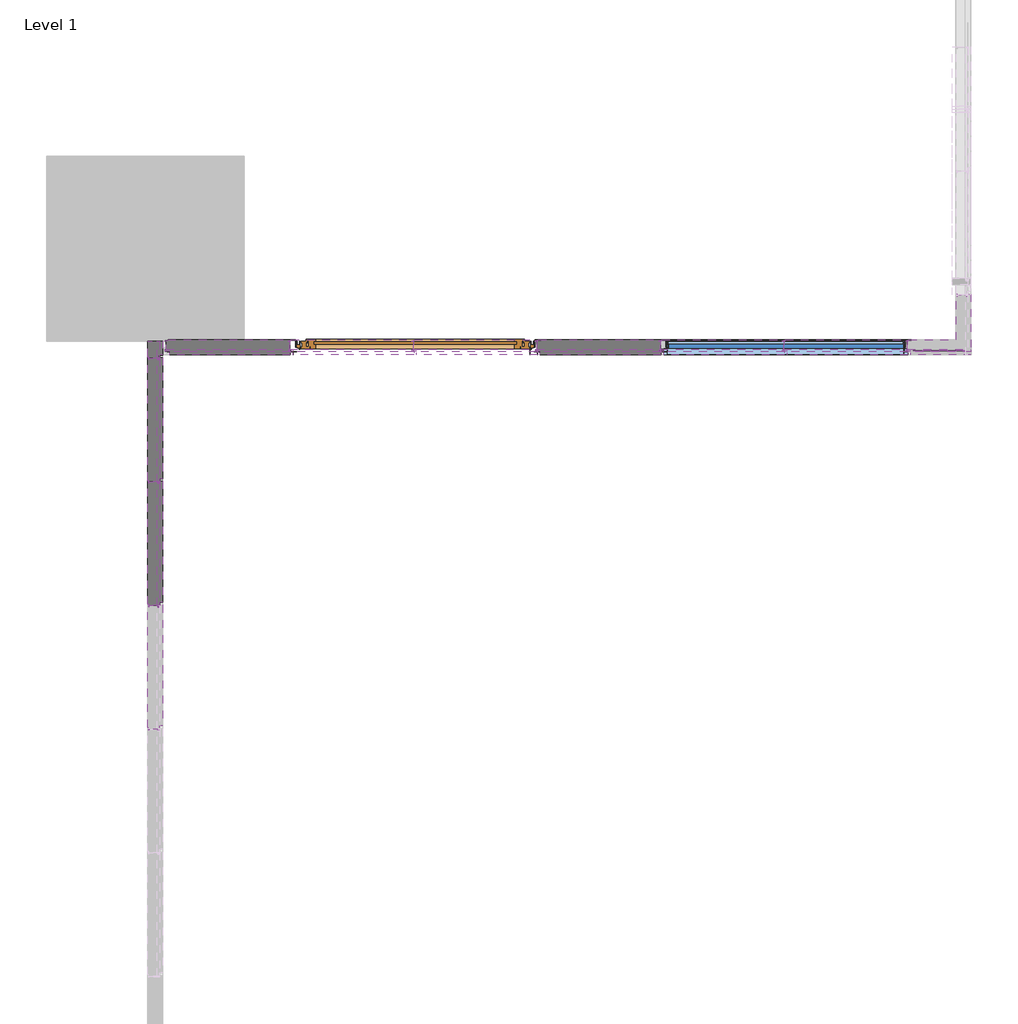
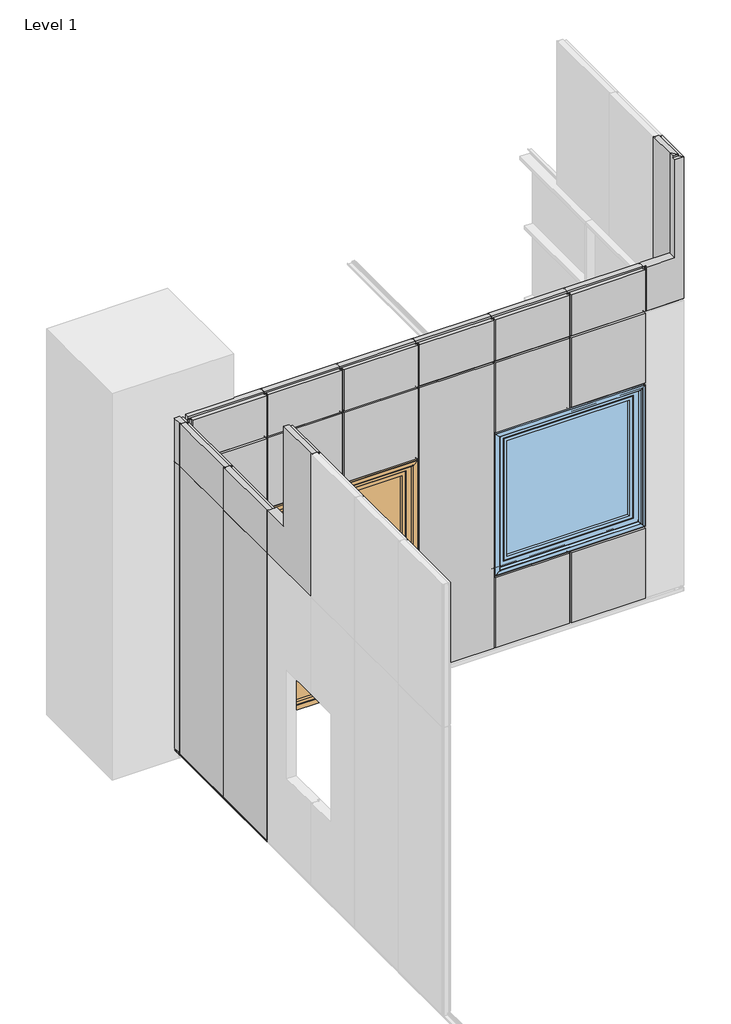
# One storey, part 4 of 8: 24 plates, 16 members, 1 door, 1 window.
"""IFC4 building model written with IfcOpenShell, lengths in millimetres."""

from ifc_helpers import new_model, si_unit, point, frame, frame_2d, origin, place, context, project, spatial, polyline, circle_curve, trimmed, segment, composite_curve, outline, extrude, faceted_brep, transform, mapped, element, save
from components import window_762d9ac7, window_b7e75d12, window_384785f8, rectangular_mullion_dd22ac08, rectangular_mullion_b855e219, qb_typ_1_ffcf64b0, qb_typ_1_c404f8b2, qb_typ_3_3dfc6f2a, qb_typ_3_856d2326, tr_empty_empty_eedd1f6f, tr_empty_empty_b4d49774, window_10a98746, window_183e3072, window_37efd591, window_7d5e8ae2

model = new_model("IFC4")

# Units and contexts
model_context = context("Model", 3, world=origin())
ifc_project = project(units=[si_unit("LENGTHUNIT", "METRE", prefix="MILLI")], contexts=[model_context])

# Site, building, storey
site = spatial("IfcSite", under=ifc_project)
building = spatial("IfcBuilding", under=site)
storey = spatial("IfcBuildingStorey", under=building, Name="Level 1", Elevation=0.0)

# Door
placement = place(None, origin())
window_shape = window_762d9ac7(model_context)
window_2_shape = window_b7e75d12(model_context)
window_3_shape = window_384785f8(model_context)
element("IfcDoor", 1, ObjectType="QO-V-QB_Door Module : Window", at=placement, inside=storey, context=model_context, shape_type="MappedRepresentation", body=[
    mapped(window_shape, transform((-4515.0000003, 7999.9, 150.0), x_axis=(-1.0, 0.0, 0.0), y_axis=(0.0, -1.0, 0.0), z_axis=(0.0, 0.0, 1.0))),
    mapped(window_2_shape, transform((-4515.0000003, 7999.9, 150.0), x_axis=(-1.0, 0.0, 0.0), y_axis=(0.0, -1.0, 0.0), z_axis=(0.0, 0.0, 1.0))),
    mapped(window_3_shape, transform((-4515.0000003, 7999.9, 150.0), x_axis=(-1.0, 0.0, 0.0), y_axis=(0.0, -1.0, 0.0), z_axis=(0.0, 0.0, 1.0))),
])

# Members
element("IfcMember", 2, ObjectType="Rectangular Mullion : QO-V-01_01 Joint", at=placement, inside=storey, context=model_context, shape_type="SweptSolid", body=[
    extrude(outline(composite_curve([segment(polyline([(4150.6475876, -6579.6160808), (4152.1626133, -6579.6160808), (4150.3497844, -6580.975941), (4150.3497844, -6581.775941), (4152.3513097, -6581.775941), (4152.3513097, -6579.3171533), (4151.2830771, -6579.3171533), (4151.2830771, -6571.539209)]), True, "CONTINUOUS"), segment(trimmed(circle_curve(frame_2d((4151.7824538, -6571.5150147)), 0.4999625), [point((4151.2830771, -6571.539209))], [point((4151.7824538, -6571.0150522))], False, "CARTESIAN"), True, "CONTINUOUS"), segment(polyline([(4151.7824538, -6571.0150522), (4162.4962599, -6571.0150522), (4162.4962599, -6581.1903783)]), True, "CONTINUOUS"), segment(trimmed(circle_curve(frame_2d((4161.8962599, -6581.1903783)), 0.6), [point((4162.4962599, -6581.1903783))], [point((4161.8962599, -6581.7903783))], False, "CARTESIAN"), True, "CONTINUOUS"), segment(polyline([(4161.8962599, -6581.7903783), (4156.3577362, -6581.7903783), (4156.3577362, -6584.605821), (4158.9563372, -6584.605821), (4157.4175879, -6588.8493825), (4154.3943655, -6585.3004501), (4145.6008097, -6585.3004501), (4142.5775874, -6588.8493825), (4141.038838, -6584.605821), (4143.637439, -6584.605821), (4143.637439, -6581.7903783), (4138.0989153, -6581.7903783)]), True, "CONTINUOUS"), segment(trimmed(circle_curve(frame_2d((4138.0989153, -6581.1903783)), 0.6), [point((4138.0989153, -6581.7903783))], [point((4137.4989153, -6581.1903783))], False, "CARTESIAN"), True, "CONTINUOUS"), segment(polyline([(4137.4989153, -6581.1903783), (4137.4989153, -6571.0150522), (4148.2127214, -6571.0150522)]), True, "CONTINUOUS"), segment(trimmed(circle_curve(frame_2d((4148.2127214, -6571.5150147)), 0.4999625), [point((4148.2127214, -6571.0150522))], [point((4148.7120981, -6571.539209))], False, "CARTESIAN"), True, "CONTINUOUS"), segment(polyline([(4148.7120981, -6571.539209), (4148.7120981, -6579.3171533), (4147.6438655, -6579.3171533), (4147.6438655, -6581.775941), (4149.6453908, -6581.775941), (4149.6453908, -6580.975941), (4147.8325619, -6579.6160808), (4149.3475876, -6579.6160808), (4149.3475876, -6570.5027716), (4141.6794739, -6570.5027716), (4140.1474985, -6569.5783626)]), True, "CONTINUOUS"), segment(trimmed(circle_curve(frame_2d((4140.3076572, -6569.3129399)), 0.31), [point((4140.1474985, -6569.5783626))], [point((4140.3076572, -6569.0029399))], False, "CARTESIAN"), True, "CONTINUOUS"), segment(polyline([(4140.3076572, -6569.0029399), (4159.6876801, -6569.0029399)]), True, "CONTINUOUS"), segment(trimmed(circle_curve(frame_2d((4159.6876801, -6569.3129399)), 0.31), [point((4159.6876801, -6569.0029399))], [point((4159.8478388, -6569.5783626))], False, "CARTESIAN"), True, "CONTINUOUS"), segment(polyline([(4159.8478388, -6569.5783626), (4158.3158634, -6570.5027716), (4150.6475876, -6570.5027716), (4150.6475876, -6579.6160808)]), True, "CONTINUOUS")], self_intersect=False)), frame((0.0, 7969.9999997, 0.0), z_axis=(0.0, 1.0, 0.0), x_axis=(0.0, 0.0, 1.0)), (0.0, 0.0, 1.0), 137.3916114),
])
rectangular_mullion_shape = rectangular_mullion_dd22ac08(model_context)
element("IfcMember", 3, ObjectType="Rectangular Mullion : QO-V-01_01 Joint", at=placement, inside=storey, context=model_context, shape_type="MappedRepresentation", body=[
    mapped(rectangular_mullion_shape, transform((-1515.0000003, 7999.9, 1150.0), x_axis=(0.0, 0.0, 1.0), y_axis=(0.0, 1.0, 0.0), z_axis=(-1.0, 0.0, 0.0))),
])
element("IfcMember", 4, ObjectType="Rectangular Mullion : QO-V-01_01 Joint", at=placement, inside=storey, context=model_context, shape_type="MappedRepresentation", body=[
    mapped(rectangular_mullion_shape, transform((-1515.0000003, 7999.9, 3150.0), x_axis=(0.0, 0.0, 1.0), y_axis=(0.0, 1.0, 0.0), z_axis=(-1.0, 0.0, 0.0))),
])
element("IfcMember", 5, ObjectType="Rectangular Mullion : QO-V-01_01 Joint", at=placement, inside=storey, context=model_context, shape_type="MappedRepresentation", body=[
    mapped(rectangular_mullion_shape, transform((-4515.0000003, 7999.9, 3150.0), x_axis=(0.0, 0.0, 1.0), y_axis=(0.0, 1.0, 0.0), z_axis=(-1.0, 0.0, 0.0))),
])
element("IfcMember", 6, ObjectType="Rectangular Mullion : QO-V-01_01 Joint", at=placement, inside=storey, context=model_context, shape_type="MappedRepresentation", body=[
    mapped(rectangular_mullion_shape, transform((-6545.0000003, 6969.9999997, 4150.0), x_axis=(0.0, 0.0, 1.0), y_axis=(-1.0, 0.0, 0.0), z_axis=(0.0, -1.0, 0.0))),
])
element("IfcMember", 7, ObjectType="Rectangular Mullion : QO-V-01_01 Joint", at=placement, inside=storey, context=model_context, shape_type="MappedRepresentation", body=[
    mapped(rectangular_mullion_shape, transform((-6545.0000003, 5969.9999997, 4150.0), x_axis=(0.0, 0.0, 1.0), y_axis=(-1.0, 0.0, 0.0), z_axis=(0.0, -1.0, 0.0))),
])
element("IfcMember", 8, ObjectType="Rectangular Mullion : QO-V-01_01 Joint", at=placement, inside=storey, context=model_context, shape_type="MappedRepresentation", body=[
    mapped(rectangular_mullion_shape, transform((-1515.0000003, 7999.9, 4150.0), x_axis=(0.0, 0.0, 1.0), y_axis=(0.0, 1.0, 0.0), z_axis=(-1.0, 0.0, 0.0))),
])
element("IfcMember", 9, ObjectType="Rectangular Mullion : QO-V-01_01 Joint", at=placement, inside=storey, context=model_context, shape_type="MappedRepresentation", body=[
    mapped(rectangular_mullion_shape, transform((-2515.0000003, 7999.9, 4150.0), x_axis=(0.0, 0.0, 1.0), y_axis=(0.0, 1.0, 0.0), z_axis=(-1.0, 0.0, 0.0))),
])
element("IfcMember", 10, ObjectType="Rectangular Mullion : QO-V-01_01 Joint", at=placement, inside=storey, context=model_context, shape_type="MappedRepresentation", body=[
    mapped(rectangular_mullion_shape, transform((-3515.0000003, 7999.9, 4150.0), x_axis=(0.0, 0.0, 1.0), y_axis=(0.0, 1.0, 0.0), z_axis=(-1.0, 0.0, 0.0))),
])
element("IfcMember", 11, ObjectType="Rectangular Mullion : QO-V-01_01 Joint", at=placement, inside=storey, context=model_context, shape_type="MappedRepresentation", body=[
    mapped(rectangular_mullion_shape, transform((-4515.0000003, 7999.9, 4150.0), x_axis=(0.0, 0.0, 1.0), y_axis=(0.0, 1.0, 0.0), z_axis=(-1.0, 0.0, 0.0))),
])
element("IfcMember", 12, ObjectType="Rectangular Mullion : QO-V-01_01 Joint", at=placement, inside=storey, context=model_context, shape_type="MappedRepresentation", body=[
    mapped(rectangular_mullion_shape, transform((-5515.0000003, 7999.9, 4150.0), x_axis=(0.0, 0.0, 1.0), y_axis=(0.0, 1.0, 0.0), z_axis=(-1.0, 0.0, 0.0))),
])
element("IfcMember", 13, ObjectType="Rectangular Mullion : QO-V-01_01 Joint", at=placement, inside=storey, context=model_context, shape_type="MappedRepresentation", body=[
    mapped(rectangular_mullion_shape, transform((-6515.0, 7999.9, 4150.0), x_axis=(0.0, 0.0, 1.0), y_axis=(0.0, 1.0, 0.0), z_axis=(-1.0, 0.0, 0.0))),
])
element("IfcMember", 14, ObjectType="Rectangular Mullion : QO-V-01_01 Joint", at=placement, inside=storey, context=model_context, shape_type="MappedRepresentation", body=[
    mapped(rectangular_mullion_shape, transform((-2515.0000003, 7999.9, 1150.0), x_axis=(0.0, 0.0, 1.0), y_axis=(0.0, 1.0, 0.0), z_axis=(-1.0, 0.0, 0.0))),
])
element("IfcMember", 15, ObjectType="Rectangular Mullion : QO-V-01_01 Joint", at=placement, inside=storey, context=model_context, shape_type="MappedRepresentation", body=[
    mapped(rectangular_mullion_shape, transform((-2515.0000003, 7999.9, 3150.0), x_axis=(0.0, 0.0, 1.0), y_axis=(0.0, 1.0, 0.0), z_axis=(-1.0, 0.0, 0.0))),
])
element("IfcMember", 16, ObjectType="Rectangular Mullion : QO-V-01_01 Joint", at=placement, inside=storey, context=model_context, shape_type="MappedRepresentation", body=[
    mapped(rectangular_mullion_shape, transform((-5515.0000003, 7999.9, 3150.0), x_axis=(0.0, 0.0, 1.0), y_axis=(0.0, 1.0, 0.0), z_axis=(-1.0, 0.0, 0.0))),
])
rectangular_mullion_2_shape = rectangular_mullion_b855e219(model_context)
element("IfcMember", 17, ObjectType="Rectangular Mullion : QO-V-01_01 Joint", at=placement, inside=storey, context=model_context, shape_type="MappedRepresentation", body=[
    mapped(rectangular_mullion_2_shape, transform((-515.0000003, 7999.9, 4150.0), x_axis=(0.0, 0.0, 1.0), y_axis=(0.0, 1.0, 0.0), z_axis=(-1.0, 0.0, 0.0))),
])

# Plates
element("IfcPlate", 18, ObjectType="TR_C_V_QBISS_Panel : QB TYP 1", at=placement, inside=storey, context=model_context, shape_type="SolidModel", body=[
    extrude(outline(polyline([(4138.3, -6593.2000003), (4162.7, -6593.2000003), (4162.7, -6594.0000003), (4137.5, -6594.0000003), (4137.5, -6589.0000003), (4138.3, -6589.0000003), (4138.3, -6593.2000003)])), frame((0.0, 8053.9999998, 0.0), z_axis=(0.0, 1.0, 0.0), x_axis=(0.0, 0.0, 1.0)), (0.0, 0.0, 1.0), 53.3916113),
    extrude(outline(polyline([(-6569.0000003, 7975.4999998), (-6570.499832, 7975.4999998), (-6570.499832, 7982.2976406), (-6572.9998296, 7982.2976406), (-6572.9998296, 7981.4976406), (-6573.7998431, 7981.4976406), (-6573.7998431, 7989.497697), (-6572.9998296, 7989.497697), (-6572.9998296, 7988.697697), (-6570.499832, 7988.697697), (-6570.499832, 7995.4999998), (-6569.0000003, 7995.4999998), (-6569.0000003, 7975.4999998)])), frame((0.0, 0.0, 4162.5), z_axis=(0.0, 0.0, 1.0), x_axis=(1.0, 0.0, 0.0)), (0.0, 0.0, 1.0), 575.0),
    faceted_brep([(-6665.0000003, 7983.9999998, 4762.4), (-6659.0000003, 7977.9999998, 4762.4), (-6659.0000003, 7959.9999998, 4762.4), (-6653.0000003, 7959.9999998, 4762.4), (-6653.0000003, 7969.9999998, 4762.4), (-6594.0000003, 7969.9999998, 4762.4), (-6594.0000003, 8107.3916111, 4762.4), (-6665.0000003, 8107.3916111, 4762.4), (-6653.0000003, 7969.9999998, 4162.5), (-6653.0000003, 7959.9999998, 4162.5), (-6659.0000003, 7959.9999998, 4162.5), (-6659.0000003, 7977.9999998, 4162.5), (-6665.0000003, 7983.9999998, 4162.5), (-6665.0000003, 8107.3916111, 4162.5), (-6594.0000003, 8107.3916111, 4162.5), (-6594.0000003, 7969.9999998, 4162.5), (-6594.0000003, 7969.9999998, 4162.7), (-6594.0000003, 8107.3916111, 4162.7), (-6545.0000003, 7996.9999998, 4162.7), (-6574.0000003, 7996.9999998, 4162.7), (-6574.0000003, 7959.9999998, 4162.7), (-6584.0000003, 7959.9999998, 4162.7), (-6584.0000003, 7969.9999998, 4162.7), (-6545.0000003, 8107.3916111, 4162.7), (-6584.0000003, 7969.9999998, 4737.3), (-6594.0000003, 7969.9999998, 4737.3), (-6584.0000003, 7959.9999998, 4737.3), (-6574.0000003, 7959.9999998, 4737.3), (-6574.0000003, 7996.9999998, 4737.3), (-6545.0000003, 7996.9999998, 4737.3), (-6545.0000003, 8107.3916111, 4737.3), (-6594.0000003, 8107.3916111, 4737.3)], [[[0, 1, 2, 3, 4, 5, 6, 7]], [[8, 9, 10, 11, 12, 13, 14, 15]], [[16, 15, 14, 17]], [[18, 19, 20, 21, 22, 16, 17, 23]], [[12, 0, 7, 13]], [[1, 0, 12, 11]], [[2, 1, 11, 10]], [[3, 2, 10, 9]], [[4, 3, 9, 8]], [[5, 4, 8, 15, 16, 22, 24, 25]], [[22, 21, 26, 24]], [[21, 20, 27, 26]], [[20, 19, 28, 27]], [[19, 18, 29, 28]], [[29, 18, 23, 30]], [[5, 25, 31, 6]], [[25, 24, 26, 27, 28, 29, 30, 31]], [[7, 6, 31, 30, 23, 17, 14, 13]]]),
])
element("IfcPlate", 19, ObjectType="TR_C_V_QBISS_Panel : QB TYP 1", at=placement, inside=storey, context=model_context, shape_type="SolidModel", body=[
    extrude(outline(polyline([(4138.3, -6593.2000003), (4162.7, -6593.2000003), (4162.7, -6594.0000003), (4137.5, -6594.0000003), (4137.5, -6589.0000003), (4138.3, -6589.0000003), (4138.3, -6593.2000003)])), frame((0.0, 6053.9999997, 0.0), z_axis=(0.0, 1.0, 0.0), x_axis=(0.0, 0.0, 1.0)), (0.0, 0.0, 1.0), 862.0),
    extrude(outline(polyline([(-6569.0000003, 5975.4999997), (-6570.499832, 5975.4999997), (-6570.499832, 5982.2976404), (-6572.9998296, 5982.2976404), (-6572.9998296, 5981.4976404), (-6573.7998431, 5981.4976404), (-6573.7998431, 5989.4976969), (-6572.9998296, 5989.4976969), (-6572.9998296, 5988.6976969), (-6570.499832, 5988.6976969), (-6570.499832, 5995.4999997), (-6569.0000003, 5995.4999997), (-6569.0000003, 5975.4999997)])), frame((0.0, 0.0, 4162.5), z_axis=(0.0, 0.0, 1.0), x_axis=(1.0, 0.0, 0.0)), (0.0, 0.0, 1.0), 575.0),
    faceted_brep([(-6653.0000003, 6969.9999997, 4762.4), (-6653.0000003, 6956.9999997, 4762.4), (-6659.0000003, 6956.9999997, 4762.4), (-6659.0000003, 6977.9999997, 4762.4), (-6665.0000003, 6977.9999997, 4762.4), (-6665.0000003, 5983.9999997, 4762.4), (-6659.0000003, 5977.9999997, 4762.4), (-6659.0000003, 5959.9999997, 4762.4), (-6653.0000003, 5959.9999997, 4762.4), (-6653.0000003, 5969.9999997, 4762.4), (-6594.0000003, 5969.9999997, 4762.4), (-6594.0000003, 6969.9999997, 4762.4), (-6653.0000003, 5969.9999997, 4162.5), (-6653.0000003, 5959.9999997, 4162.5), (-6659.0000003, 5959.9999997, 4162.5), (-6659.0000003, 5977.9999997, 4162.5), (-6665.0000003, 5983.9999997, 4162.5), (-6665.0000003, 6977.9999997, 4162.5), (-6659.0000003, 6977.9999997, 4162.5), (-6659.0000003, 6956.9999997, 4162.5), (-6653.0000003, 6956.9999997, 4162.5), (-6653.0000003, 6969.9999997, 4162.5), (-6594.0000003, 6969.9999997, 4162.5), (-6594.0000003, 5969.9999997, 4162.5), (-6594.0000003, 6969.9999997, 4162.7), (-6594.0000003, 5969.9999997, 4162.7), (-6584.0000003, 6969.9999997, 4162.7), (-6584.0000003, 6956.9999997, 4162.7), (-6574.0000003, 6956.9999997, 4162.7), (-6574.0000003, 6973.9999997, 4162.7), (-6545.0000003, 6973.9999997, 4162.7), (-6545.0000003, 5996.9999997, 4162.7), (-6574.0000003, 5996.9999997, 4162.7), (-6574.0000003, 5959.9999997, 4162.7), (-6584.0000003, 5959.9999997, 4162.7), (-6584.0000003, 5969.9999997, 4162.7), (-6584.0000003, 5969.9999997, 4737.3), (-6594.0000003, 5969.9999997, 4737.3), (-6584.0000003, 5959.9999997, 4737.3), (-6574.0000003, 5959.9999997, 4737.3), (-6574.0000003, 5996.9999997, 4737.3), (-6545.0000003, 5996.9999997, 4737.3), (-6545.0000003, 6973.9999997, 4737.3), (-6574.0000003, 6973.9999997, 4737.3), (-6574.0000003, 6956.9999997, 4737.3), (-6584.0000003, 6956.9999997, 4737.3), (-6584.0000003, 6969.9999997, 4737.3), (-6594.0000003, 6969.9999997, 4737.3)], [[[0, 1, 2, 3, 4, 5, 6, 7, 8, 9, 10, 11]], [[12, 13, 14, 15, 16, 17, 18, 19, 20, 21, 22, 23]], [[24, 25, 23, 22]], [[25, 24, 26, 27, 28, 29, 30, 31, 32, 33, 34, 35]], [[1, 0, 21, 20]], [[2, 1, 20, 19]], [[3, 2, 19, 18]], [[4, 3, 18, 17]], [[5, 4, 17, 16]], [[6, 5, 16, 15]], [[7, 6, 15, 14]], [[8, 7, 14, 13]], [[9, 8, 13, 12]], [[9, 12, 23, 25, 35, 36, 37, 10]], [[35, 34, 38, 36]], [[34, 33, 39, 38]], [[33, 32, 40, 39]], [[32, 31, 41, 40]], [[31, 30, 42, 41]], [[30, 29, 43, 42]], [[29, 28, 44, 43]], [[28, 27, 45, 44]], [[27, 26, 46, 45]], [[21, 0, 11, 47, 46, 26, 24, 22]], [[37, 47, 11, 10]], [[47, 37, 36, 38, 39, 40, 41, 42, 43, 44, 45, 46]]]),
])
element("IfcPlate", 20, ObjectType="TR_C_V_QBISS_Panel : QB TYP 1", at=placement, inside=storey, context=model_context, shape_type="SolidModel", body=[
    extrude(outline(polyline([(4138.3, -6593.2000003), (4162.7, -6593.2000003), (4162.7, -6594.0000003), (4137.5, -6594.0000003), (4137.5, -6589.0000003), (4138.3, -6589.0000003), (4138.3, -6593.2000003)])), frame((0.0, 5053.9999997, 0.0), z_axis=(0.0, 1.0, 0.0), x_axis=(0.0, 0.0, 1.0)), (0.0, 0.0, 1.0), 862.0),
    extrude(outline(polyline([(-6569.0000003, 4975.4999997), (-6570.499832, 4975.4999997), (-6570.499832, 4982.2976404), (-6572.9998296, 4982.2976404), (-6572.9998296, 4981.4976404), (-6573.7998431, 4981.4976404), (-6573.7998431, 4989.4976969), (-6572.9998296, 4989.4976969), (-6572.9998296, 4988.6976969), (-6570.499832, 4988.6976969), (-6570.499832, 4995.4999997), (-6569.0000003, 4995.4999997), (-6569.0000003, 4975.4999997)])), frame((0.0, 0.0, 4162.5), z_axis=(0.0, 0.0, 1.0), x_axis=(1.0, 0.0, 0.0)), (0.0, 0.0, 1.0), 1975.0),
    faceted_brep([(-6665.0000003, 4983.9999997, 6162.4), (-6659.0000003, 4977.9999997, 6162.4), (-6659.0000003, 4959.9999997, 6162.4), (-6653.0000003, 4959.9999997, 6162.4), (-6653.0000003, 4969.9999997, 6162.4), (-6594.0000003, 4969.9999997, 6162.4), (-6594.0000003, 5605.8999997, 6162.4), (-6665.0000003, 5605.8999997, 6162.4), (-6653.0000003, 4969.9999997, 4162.5), (-6653.0000003, 4959.9999997, 4162.5), (-6659.0000003, 4959.9999997, 4162.5), (-6659.0000003, 4977.9999997, 4162.5), (-6665.0000003, 4983.9999997, 4162.5), (-6665.0000003, 5977.9999997, 4162.5), (-6659.0000003, 5977.9999997, 4162.5), (-6659.0000003, 5956.9999997, 4162.5), (-6653.0000003, 5956.9999997, 4162.5), (-6653.0000003, 5969.9999997, 4162.5), (-6594.0000003, 5969.9999997, 4162.5), (-6594.0000003, 4969.9999997, 4162.5), (-6594.0000003, 5969.9999997, 4162.7), (-6594.0000003, 4969.9999997, 4162.7), (-6584.0000003, 5969.9999997, 4162.7), (-6584.0000003, 5956.9999997, 4162.7), (-6574.0000003, 5956.9999997, 4162.7), (-6574.0000003, 5973.9999997, 4162.7), (-6545.0000003, 5973.9999997, 4162.7), (-6545.0000003, 4996.9999997, 4162.7), (-6574.0000003, 4996.9999997, 4162.7), (-6574.0000003, 4959.9999997, 4162.7), (-6584.0000003, 4959.9999997, 4162.7), (-6584.0000003, 4969.9999997, 4162.7), (-6653.0000003, 5956.9999997, 4770.0), (-6653.0000003, 5969.9999997, 4770.0), (-6659.0000003, 5956.9999997, 4770.0), (-6659.0000003, 5977.9999997, 4770.0), (-6665.0000003, 5977.9999997, 4770.0), (-6665.0000003, 5605.8999997, 4770.0), (-6584.0000003, 4969.9999997, 6137.3), (-6594.0000003, 4969.9999997, 6137.3), (-6584.0000003, 4959.9999997, 6137.3), (-6574.0000003, 4959.9999997, 6137.3), (-6574.0000003, 4996.9999997, 6137.3), (-6545.0000003, 4996.9999997, 6137.3), (-6545.0000003, 5973.9999997, 4770.0), (-6545.0000003, 5605.8999997, 4770.0), (-6545.0000003, 5605.8999997, 6137.3), (-6574.0000003, 5973.9999997, 4770.0), (-6574.0000003, 5956.9999997, 4770.0), (-6584.0000003, 5956.9999997, 4770.0), (-6584.0000003, 5969.9999997, 4770.0), (-6594.0000003, 5605.8999997, 6137.3)], [[[0, 1, 2, 3, 4, 5, 6, 7]], [[8, 9, 10, 11, 12, 13, 14, 15, 16, 17, 18, 19]], [[19, 18, 20, 21]], [[21, 20, 22, 23, 24, 25, 26, 27, 28, 29, 30, 31]], [[17, 16, 32, 33]], [[16, 15, 34, 32]], [[15, 14, 35, 34]], [[14, 13, 36, 35]], [[13, 12, 0, 7, 37, 36]], [[1, 0, 12, 11]], [[2, 1, 11, 10]], [[3, 2, 10, 9]], [[4, 3, 9, 8]], [[5, 4, 8, 19, 21, 31, 38, 39]], [[31, 30, 40, 38]], [[30, 29, 41, 40]], [[29, 28, 42, 41]], [[28, 27, 43, 42]], [[27, 26, 44, 45, 46, 43]], [[26, 25, 47, 44]], [[25, 24, 48, 47]], [[24, 23, 49, 48]], [[23, 22, 50, 49]], [[18, 17, 33, 50, 22, 20]], [[5, 39, 51, 6]], [[39, 38, 40, 41, 42, 43, 46, 51]], [[45, 37, 7, 6, 51, 46]], [[37, 45, 44, 47, 48, 49, 50, 33, 32, 34, 35, 36]]]),
])
element("IfcPlate", 21, ObjectType="TR_C_V_QBISS_Corner_Long_A : QB TYP 1", at=placement, inside=storey, context=model_context, shape_type="SolidModel", body=[
    faceted_brep([(-108.0, 8484.9, 6162.4), (-108.0, 8471.9, 6162.4), (-114.0, 8471.9, 6162.4), (-114.0, 8492.9, 6162.4), (-120.0, 8492.9, 6162.4), (-120.0, 8119.9, 6162.4), (-49.0, 8048.9, 6162.4), (-49.0, 8484.9, 6162.4), (-120.0, 8119.9, 4162.5), (-120.0, 8492.9, 4162.5), (-114.0, 8492.9, 4162.5), (-114.0, 8471.9, 4162.5), (-108.0, 8471.9, 4162.5), (-108.0, 8484.9, 4162.5), (-49.0, 8484.9, 4162.5), (-49.0, 8048.9, 4162.5), (-49.0, 8484.9, 4162.7), (-49.0, 8048.9, 4162.7), (-39.0, 8484.9, 4162.7), (-39.0, 8471.9, 4162.7), (-29.0, 8471.9, 4162.7), (-29.0, 8488.9, 4162.7), (0.0, 8488.9, 4162.7), (0.0, 7999.9, 4162.7), (0.0, 8488.9, 6137.3), (0.0, 7999.9, 6137.3), (-29.0, 8488.9, 6137.3), (-29.0, 8471.9, 6137.3), (-39.0, 8471.9, 6137.3), (-39.0, 8484.9, 6137.3), (-49.0, 8484.9, 6137.3), (-49.0, 8048.9, 6137.3)], [[[0, 1, 2, 3, 4, 5, 6, 7]], [[8, 9, 10, 11, 12, 13, 14, 15]], [[16, 17, 15, 14]], [[17, 16, 18, 19, 20, 21, 22, 23]], [[1, 0, 13, 12]], [[2, 1, 12, 11]], [[3, 2, 11, 10]], [[4, 3, 10, 9]], [[5, 4, 9, 8]], [[23, 22, 24, 25]], [[22, 21, 26, 24]], [[21, 20, 27, 26]], [[20, 19, 28, 27]], [[19, 18, 29, 28]], [[13, 0, 7, 30, 29, 18, 16, 14]], [[31, 30, 7, 6]], [[30, 31, 25, 24, 26, 27, 28, 29]], [[5, 8, 15, 17, 23, 25, 31, 6]]]),
    faceted_brep([(-48.2, 8430.9, 4138.3), (-44.0, 8430.9, 4138.3), (-44.0, 8430.9, 4137.5), (-49.0, 8430.9, 4137.5), (-49.0, 8430.9, 4162.7), (-48.2, 8430.9, 4162.7), (-48.2, 8048.1, 4162.7), (-48.2, 8048.1, 4138.3), (-49.0, 8048.9, 4162.7), (-49.0, 8048.9, 4137.5), (-44.0, 8043.9, 4137.5), (-44.0, 8043.9, 4138.3)], [[[0, 1, 2, 3, 4, 5]], [[0, 5, 6, 7]], [[5, 4, 8, 6]], [[4, 3, 9, 8]], [[3, 2, 10, 9]], [[2, 1, 11, 10]], [[1, 0, 7, 11]], [[7, 6, 8, 9, 10, 11]]]),
    extrude(outline(polyline([(-509.5, 8023.9), (-509.5, 8025.3998317), (-502.7023593, 8025.3998317), (-502.7023593, 8027.8998293), (-503.5023593, 8027.8998293), (-503.5023593, 8028.6998428), (-495.5023028, 8028.6998428), (-495.5023028, 8027.8998293), (-496.3023028, 8027.8998293), (-496.3023028, 8025.3998317), (-489.5, 8025.3998317), (-489.5, 8023.9), (-509.5, 8023.9)])), frame((0.0, 0.0, 4162.7), z_axis=(0.0, 0.0, 1.0), x_axis=(1.0, 0.0, 0.0)), (0.0, 0.0, 1.0), 607.3),
    faceted_brep([(-49.0, 8048.9, 6162.4), (-120.0, 8119.9, 6162.4), (-120.0, 8048.9, 6162.4), (-515.0, 8107.9, 4162.5), (-525.0, 8107.9, 4162.5), (-525.0, 8113.9, 4162.5), (-507.0, 8113.9, 4162.5), (-501.0, 8119.9, 4162.5), (-120.0, 8119.9, 4162.5), (-49.0, 8048.9, 4162.5), (-515.0, 8048.9, 4162.5), (-501.0, 8119.9, 4770.0), (-120.0, 8119.9, 4770.0), (-507.0, 8113.9, 4770.0), (-525.0, 8113.9, 4770.0), (-525.0, 8107.9, 4770.0), (-515.0, 8107.9, 4770.0), (-515.0, 8048.9, 4162.7), (-515.0, 8038.9, 4162.7), (-515.0, 8038.9, 4770.0), (-525.0, 8038.9, 4162.7), (-525.0, 8038.9, 4770.0), (-525.0, 8028.9, 4162.7), (-525.0, 8028.9, 4770.0), (-488.0, 8028.9, 4162.7), (-488.0, 8028.9, 4770.0), (-488.0, 7999.9, 4162.7), (-488.0, 7999.9, 4770.0), (0.0, 7999.9, 4162.7), (0.0, 7999.9, 6137.3), (-120.0, 7999.9, 6137.3), (-120.0, 7999.9, 4770.0), (-49.0, 8048.9, 6137.3), (-120.0, 8048.9, 6137.3), (-49.0, 8048.9, 4162.7)], [[[0, 1, 2]], [[3, 4, 5, 6, 7, 8, 9, 10]], [[8, 7, 11, 12]], [[7, 6, 13, 11]], [[6, 5, 14, 13]], [[5, 4, 15, 14]], [[4, 3, 16, 15]], [[3, 10, 17, 18, 19, 16]], [[18, 20, 21, 19]], [[20, 22, 23, 21]], [[22, 24, 25, 23]], [[24, 26, 27, 25]], [[26, 28, 29, 30, 31, 27]], [[32, 0, 2, 33]], [[29, 32, 33, 30]], [[10, 9, 34, 17]], [[18, 17, 34, 28, 26, 24, 22, 20]], [[1, 0, 32, 29, 28, 34, 9, 8, 12]], [[12, 31, 30, 33, 2, 1]], [[31, 12, 11, 13, 14, 15, 16, 19, 21, 23, 25, 27]]]),
    faceted_brep([(-431.0, 8048.9, 4137.5), (-431.0, 8043.9, 4137.5), (-431.0, 8043.9, 4138.3), (-431.0, 8048.1, 4138.3), (-431.0, 8048.1, 4162.7), (-431.0, 8048.9, 4162.7), (-49.0, 8048.9, 4137.5), (-44.0, 8043.9, 4137.5), (-44.0, 8043.9, 4138.3), (-48.2, 8048.1, 4138.3), (-48.2, 8048.1, 4162.7), (-49.0, 8048.9, 4162.7)], [[[0, 1, 2, 3, 4, 5]], [[1, 0, 6, 7]], [[2, 1, 7, 8]], [[3, 2, 8, 9]], [[4, 3, 9, 10]], [[5, 4, 10, 11]], [[0, 5, 11, 6]], [[7, 6, 11, 10, 9, 8]]]),
])
qb_typ_1_shape = qb_typ_1_ffcf64b0(model_context)
element("IfcPlate", 22, ObjectType="TR_C_V_QBISS_Panel : QB TYP 1", at=placement, inside=storey, context=model_context, shape_type="MappedRepresentation", body=[
    mapped(qb_typ_1_shape, transform((-6545.0000003, 7469.9999997, 4150.0), x_axis=(0.0, -1.0, 0.0), y_axis=(1.0, 0.0, 0.0), z_axis=(0.0, 0.0, 1.0))),
])
element("IfcPlate", 23, ObjectType="TR_C_V_QBISS_Panel : QB TYP 1", at=placement, inside=storey, context=model_context, shape_type="MappedRepresentation", body=[
    mapped(qb_typ_1_shape, transform((-1015.0000003, 7999.9, 4150.0), x_axis=(-1.0, 0.0, 0.0), y_axis=(0.0, -1.0, 0.0), z_axis=(0.0, 0.0, 1.0))),
])
element("IfcPlate", 24, ObjectType="TR_C_V_QBISS_Panel : QB TYP 1", at=placement, inside=storey, context=model_context, shape_type="MappedRepresentation", body=[
    mapped(qb_typ_1_shape, transform((-2015.0000003, 7999.9, 4150.0), x_axis=(-1.0, 0.0, 0.0), y_axis=(0.0, -1.0, 0.0), z_axis=(0.0, 0.0, 1.0))),
])
element("IfcPlate", 25, ObjectType="TR_C_V_QBISS_Panel : QB TYP 1", at=placement, inside=storey, context=model_context, shape_type="MappedRepresentation", body=[
    mapped(qb_typ_1_shape, transform((-3015.0000003, 7999.9, 4150.0), x_axis=(-1.0, 0.0, 0.0), y_axis=(0.0, -1.0, 0.0), z_axis=(0.0, 0.0, 1.0))),
])
element("IfcPlate", 26, ObjectType="TR_C_V_QBISS_Panel : QB TYP 1", at=placement, inside=storey, context=model_context, shape_type="MappedRepresentation", body=[
    mapped(qb_typ_1_shape, transform((-4015.0000003, 7999.9, 4150.0), x_axis=(-1.0, 0.0, 0.0), y_axis=(0.0, -1.0, 0.0), z_axis=(0.0, 0.0, 1.0))),
])
element("IfcPlate", 27, ObjectType="TR_C_V_QBISS_Panel : QB TYP 1", at=placement, inside=storey, context=model_context, shape_type="MappedRepresentation", body=[
    mapped(qb_typ_1_shape, transform((-5015.0000003, 7999.9, 4150.0), x_axis=(-1.0, 0.0, 0.0), y_axis=(0.0, -1.0, 0.0), z_axis=(0.0, 0.0, 1.0))),
])
element("IfcPlate", 28, ObjectType="TR_C_V_QBISS_Panel : QB TYP 1", at=placement, inside=storey, context=model_context, shape_type="MappedRepresentation", body=[
    mapped(qb_typ_1_shape, transform((-6015.0000002, 7999.9, 4150.0), x_axis=(-1.0, 0.0, 0.0), y_axis=(0.0, -1.0, 0.0), z_axis=(0.0, 0.0, 1.0))),
])
qb_typ_1_2_shape = qb_typ_1_c404f8b2(model_context)
element("IfcPlate", 29, ObjectType="TR_C_V_QBISS_Panel : QB TYP 1", at=placement, inside=storey, context=model_context, shape_type="MappedRepresentation", body=[
    mapped(qb_typ_1_2_shape, transform((-1015.0000003, 7999.9, 3150.0), x_axis=(-1.0, 0.0, 0.0), y_axis=(0.0, -1.0, 0.0), z_axis=(0.0, 0.0, 1.0))),
])
element("IfcPlate", 30, ObjectType="TR_C_V_QBISS_Panel : QB TYP 1", at=placement, inside=storey, context=model_context, shape_type="MappedRepresentation", body=[
    mapped(qb_typ_1_2_shape, transform((-2015.0000003, 7999.9, 3150.0), x_axis=(-1.0, 0.0, 0.0), y_axis=(0.0, -1.0, 0.0), z_axis=(0.0, 0.0, 1.0))),
])
element("IfcPlate", 31, ObjectType="TR_C_V_QBISS_Panel : QB TYP 1", at=placement, inside=storey, context=model_context, shape_type="MappedRepresentation", body=[
    mapped(qb_typ_1_2_shape, transform((-4015.0000003, 7999.9, 3150.0), x_axis=(-1.0, 0.0, 0.0), y_axis=(0.0, -1.0, 0.0), z_axis=(0.0, 0.0, 1.0))),
])
element("IfcPlate", 32, ObjectType="TR_C_V_QBISS_Panel : QB TYP 1", at=placement, inside=storey, context=model_context, shape_type="MappedRepresentation", body=[
    mapped(qb_typ_1_2_shape, transform((-5015.0000003, 7999.9, 3150.0), x_axis=(-1.0, 0.0, 0.0), y_axis=(0.0, -1.0, 0.0), z_axis=(0.0, 0.0, 1.0))),
])
element("IfcPlate", 33, ObjectType="TR_C_V_QBISS_Panel : QB TYP 3", at=placement, inside=storey, context=model_context, shape_type="SolidModel", body=[
    extrude(outline(polyline([(-6569.0000003, 7975.4999998), (-6570.499832, 7975.4999998), (-6570.499832, 7982.2976406), (-6572.9998296, 7982.2976406), (-6572.9998296, 7981.4976406), (-6573.7998431, 7981.4976406), (-6573.7998431, 7989.497697), (-6572.9998296, 7989.497697), (-6572.9998296, 7988.697697), (-6570.499832, 7988.697697), (-6570.499832, 7995.4999998), (-6569.0000003, 7995.4999998), (-6569.0000003, 7975.4999998)])), frame((0.0, 0.0, 162.5), z_axis=(0.0, 0.0, 1.0), x_axis=(1.0, 0.0, 0.0)), (0.0, 0.0, 1.0), 3975.0),
    faceted_brep([(-6665.0000003, 7983.9999998, 4162.4), (-6659.0000003, 7977.9999998, 4162.4), (-6659.0000003, 7959.9999998, 4162.4), (-6653.0000003, 7959.9999998, 4162.4), (-6653.0000003, 7969.9999998, 4162.4), (-6594.0000003, 7969.9999998, 4162.4), (-6594.0000003, 8107.3916111, 4162.4), (-6665.0000003, 8107.3916111, 4162.4), (-6653.0000003, 7969.9999998, 137.6), (-6653.0000003, 7959.9999998, 137.6), (-6659.0000003, 7959.9999998, 137.6), (-6659.0000003, 7977.9999998, 137.6), (-6665.0000003, 7983.9999998, 137.6), (-6665.0000003, 8107.3916111, 137.6), (-6594.0000003, 8107.3916111, 137.6), (-6594.0000003, 7969.9999998, 137.6), (-6594.0000003, 7969.9999998, 162.7), (-6594.0000003, 8107.3916111, 162.7), (-6545.0000003, 7996.9999998, 162.7), (-6574.0000003, 7996.9999998, 162.7), (-6574.0000003, 7959.9999998, 162.7), (-6584.0000003, 7959.9999998, 162.7), (-6584.0000003, 7969.9999998, 162.7), (-6545.0000003, 8107.3916111, 162.7), (-6584.0000003, 7969.9999998, 4137.3), (-6594.0000003, 7969.9999998, 4137.3), (-6584.0000003, 7959.9999998, 4137.3), (-6574.0000003, 7959.9999998, 4137.3), (-6574.0000003, 7996.9999998, 4137.3), (-6545.0000003, 7996.9999998, 4137.3), (-6545.0000003, 8107.3916111, 4137.3), (-6594.0000003, 8107.3916111, 4137.3)], [[[0, 1, 2, 3, 4, 5, 6, 7]], [[8, 9, 10, 11, 12, 13, 14, 15]], [[16, 15, 14, 17]], [[18, 19, 20, 21, 22, 16, 17, 23]], [[12, 0, 7, 13]], [[1, 0, 12, 11]], [[2, 1, 11, 10]], [[3, 2, 10, 9]], [[4, 3, 9, 8]], [[5, 4, 8, 15, 16, 22, 24, 25]], [[22, 21, 26, 24]], [[21, 20, 27, 26]], [[20, 19, 28, 27]], [[19, 18, 29, 28]], [[29, 18, 23, 30]], [[5, 25, 31, 6]], [[25, 24, 26, 27, 28, 29, 30, 31]], [[7, 6, 31, 30, 23, 17, 14, 13]]]),
])
qb_typ_3_shape = qb_typ_3_3dfc6f2a(model_context)
element("IfcPlate", 34, ObjectType="TR_C_V_QBISS_Panel : QB TYP 3", at=placement, inside=storey, context=model_context, shape_type="MappedRepresentation", body=[
    mapped(qb_typ_3_shape, transform((-6545.0000003, 7469.9999997, 150.0), x_axis=(0.0, -1.0, 0.0), y_axis=(1.0, 0.0, 0.0), z_axis=(0.0, 0.0, 1.0))),
])
element("IfcPlate", 35, ObjectType="TR_C_V_QBISS_Panel : QB TYP 3", at=placement, inside=storey, context=model_context, shape_type="MappedRepresentation", body=[
    mapped(qb_typ_3_shape, transform((-6545.0000003, 6469.9999997, 150.0), x_axis=(0.0, -1.0, 0.0), y_axis=(1.0, 0.0, 0.0), z_axis=(0.0, 0.0, 1.0))),
])
qb_typ_3_2_shape = qb_typ_3_856d2326(model_context)
element("IfcPlate", 36, ObjectType="TR_C_V_QBISS_Panel : QB TYP 3", at=placement, inside=storey, context=model_context, shape_type="MappedRepresentation", body=[
    mapped(qb_typ_3_2_shape, transform((-1015.0000003, 7999.9, 150.0), x_axis=(-1.0, 0.0, 0.0), y_axis=(0.0, -1.0, 0.0), z_axis=(0.0, 0.0, 1.0))),
])
element("IfcPlate", 37, ObjectType="TR_C_V_QBISS_Panel : QB TYP 3", at=placement, inside=storey, context=model_context, shape_type="MappedRepresentation", body=[
    mapped(qb_typ_3_2_shape, transform((-2015.0000003, 7999.9, 150.0), x_axis=(-1.0, 0.0, 0.0), y_axis=(0.0, -1.0, 0.0), z_axis=(0.0, 0.0, 1.0))),
])
element("IfcPlate", 38, ObjectType="TR_C_V_QBISS_Panel : QB TYP 3", at=placement, inside=storey, context=model_context, shape_type="MappedRepresentation", body=[
    mapped(qb_typ_3_shape, transform((-3015.0000003, 7999.9, 150.0), x_axis=(-1.0, 0.0, 0.0), y_axis=(0.0, -1.0, 0.0), z_axis=(0.0, 0.0, 1.0))),
])
element("IfcPlate", 39, ObjectType="TR_C_V_QBISS_Panel : QB TYP 3", at=placement, inside=storey, context=model_context, shape_type="MappedRepresentation", body=[
    mapped(qb_typ_3_shape, transform((-6015.0000002, 7999.9, 150.0), x_axis=(-1.0, 0.0, 0.0), y_axis=(0.0, -1.0, 0.0), z_axis=(0.0, 0.0, 1.0))),
])
tr_empty_empty_shape = tr_empty_empty_eedd1f6f(model_context)
element("IfcPlate", 40, ObjectType="TR_EMPTY : EMPTY", at=placement, inside=storey, context=model_context, shape_type="MappedRepresentation", body=[
    mapped(tr_empty_empty_shape, transform((-257.5000002, 7999.9, 4150.0), x_axis=(-1.0, 0.0, 0.0), y_axis=(0.0, -1.0, 0.0), z_axis=(0.0, 0.0, 1.0))),
])
tr_empty_empty_2_shape = tr_empty_empty_b4d49774(model_context)
element("IfcPlate", 41, ObjectType="TR_EMPTY : EMPTY", at=placement, inside=storey, context=model_context, shape_type="MappedRepresentation", body=[
    mapped(tr_empty_empty_2_shape, transform((-257.5000002, 7999.9, 150.0), x_axis=(-1.0, 0.0, 0.0), y_axis=(0.0, -1.0, 0.0), z_axis=(0.0, 0.0, 1.0))),
])

# Window
window_4_shape = window_10a98746(model_context)
window_5_shape = window_183e3072(model_context)
window_6_shape = window_37efd591(model_context)
window_7_shape = window_7d5e8ae2(model_context)
element("IfcWindow", 42, ObjectType="QO-V-QBISS_Window Module : Window", at=placement, inside=storey, context=model_context, shape_type="MappedRepresentation", body=[
    mapped(window_4_shape, transform((-1515.0000003, 7999.9, 1150.0), x_axis=(-1.0, 0.0, 0.0), y_axis=(0.0, -1.0, 0.0), z_axis=(0.0, 0.0, 1.0))),
    mapped(window_5_shape, transform((-1515.0000003, 7999.9, 1150.0), x_axis=(-1.0, 0.0, 0.0), y_axis=(0.0, -1.0, 0.0), z_axis=(0.0, 0.0, 1.0))),
    mapped(window_6_shape, transform((-1515.0000003, 7999.9, 1150.0), x_axis=(-1.0, 0.0, 0.0), y_axis=(0.0, -1.0, 0.0), z_axis=(0.0, 0.0, 1.0))),
    mapped(window_7_shape, transform((-1515.0000003, 7999.9, 1150.0), x_axis=(-1.0, 0.0, 0.0), y_axis=(0.0, -1.0, 0.0), z_axis=(0.0, 0.0, 1.0))),
])

save(model, "model.ifc")
